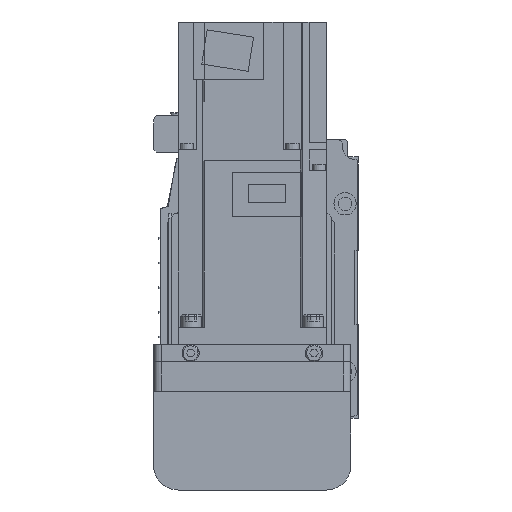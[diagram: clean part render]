
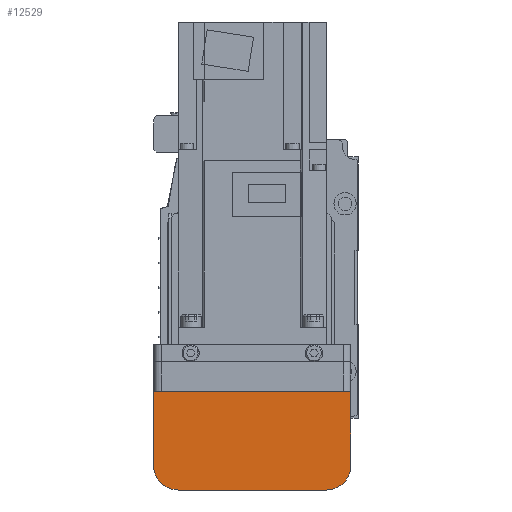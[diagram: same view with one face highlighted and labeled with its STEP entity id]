
A CAD part, left-side view. The second image highlights one B-rep face of the part: STEP entity #12529.
In plain terms, the highlighted planar face has unit normal (-1, 0, 0).
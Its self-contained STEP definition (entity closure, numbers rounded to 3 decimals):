
#483=CIRCLE('',#13489,10.);
#484=CIRCLE('',#13490,10.);
#2152=ORIENTED_EDGE('',*,*,#5067,.F.);
#2153=ORIENTED_EDGE('',*,*,#5068,.F.);
#2154=ORIENTED_EDGE('',*,*,#5069,.F.);
#2155=ORIENTED_EDGE('',*,*,#5070,.F.);
#2156=ORIENTED_EDGE('',*,*,#5071,.F.);
#2157=ORIENTED_EDGE('',*,*,#5072,.F.);
#5067=EDGE_CURVE('',#6631,#6627,#7907,.T.);
#5068=EDGE_CURVE('',#6643,#6631,#7908,.T.);
#5069=EDGE_CURVE('',#6644,#6643,#483,.T.);
#5070=EDGE_CURVE('',#6645,#6644,#7909,.T.);
#5071=EDGE_CURVE('',#6646,#6645,#484,.T.);
#5072=EDGE_CURVE('',#6627,#6646,#7910,.T.);
#6627=VERTEX_POINT('',#19573);
#6631=VERTEX_POINT('',#19583);
#6643=VERTEX_POINT('',#19612);
#6644=VERTEX_POINT('',#19614);
#6645=VERTEX_POINT('',#19616);
#6646=VERTEX_POINT('',#19618);
#7907=LINE('',#19610,#9135);
#7908=LINE('',#19611,#9136);
#7909=LINE('',#19615,#9137);
#7910=LINE('',#19619,#9138);
#9135=VECTOR('',#15742,1000.);
#9136=VECTOR('',#15743,1000.);
#9137=VECTOR('',#15746,1000.);
#9138=VECTOR('',#15749,1000.);
#10190=EDGE_LOOP('',(#2152,#2153,#2154,#2155,#2156,#2157));
#11156=FACE_BOUND('',#10190,.T.);
#11965=PLANE('',#13488);
#12529=ADVANCED_FACE('',(#11156),#11965,.F.);
#13488=AXIS2_PLACEMENT_3D('',#19609,#15740,#15741);
#13489=AXIS2_PLACEMENT_3D('',#19613,#15744,#15745);
#13490=AXIS2_PLACEMENT_3D('',#19617,#15747,#15748);
#15740=DIRECTION('',(1.,0.,0.));
#15741=DIRECTION('',(0.,0.,-1.));
#15742=DIRECTION('',(0.,-1.,0.));
#15743=DIRECTION('',(0.,0.,1.));
#15744=DIRECTION('',(1.,0.,0.));
#15745=DIRECTION('',(0.,0.,-1.));
#15746=DIRECTION('',(0.,1.,0.));
#15747=DIRECTION('',(1.,0.,0.));
#15748=DIRECTION('',(0.,0.,-1.));
#15749=DIRECTION('',(0.,0.,-1.));
#19573=CARTESIAN_POINT('',(-192.,-40.,-12.1));
#19583=CARTESIAN_POINT('',(-192.,40.,-12.1));
#19609=CARTESIAN_POINT('',(-192.,37.,7.));
#19610=CARTESIAN_POINT('',(-192.,50.,-12.1));
#19611=CARTESIAN_POINT('',(-192.,40.,-42.));
#19612=CARTESIAN_POINT('',(-192.,40.,-42.));
#19613=CARTESIAN_POINT('',(-192.,30.,-42.));
#19614=CARTESIAN_POINT('',(-192.,30.,-52.));
#19615=CARTESIAN_POINT('',(-192.,-30.,-52.));
#19616=CARTESIAN_POINT('',(-192.,-30.,-52.));
#19617=CARTESIAN_POINT('',(-192.,-30.,-42.));
#19618=CARTESIAN_POINT('',(-192.,-40.,-42.));
#19619=CARTESIAN_POINT('',(-192.,-40.,-12.1));
